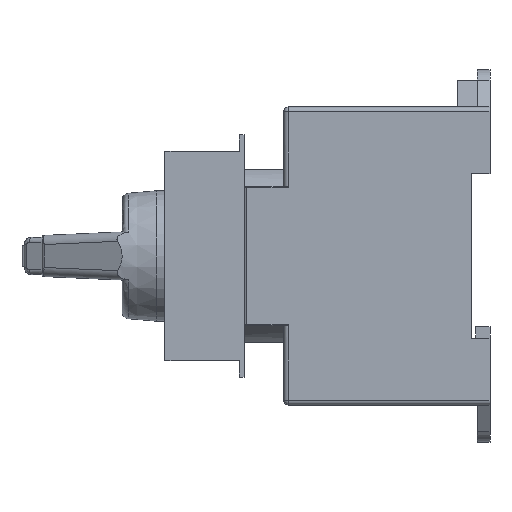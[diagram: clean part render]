
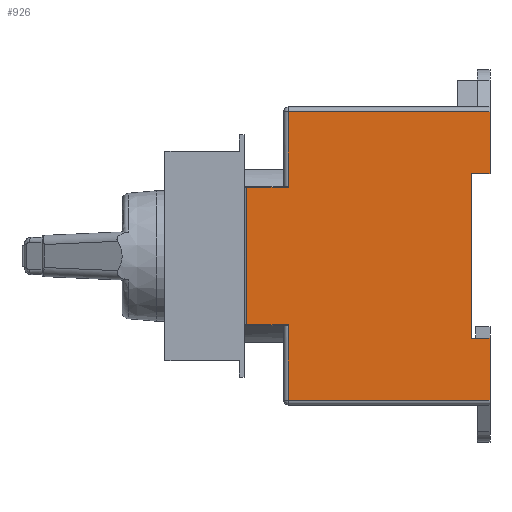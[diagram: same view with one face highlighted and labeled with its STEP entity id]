
A CAD part, left-side view. The second image highlights one B-rep face of the part: STEP entity #926.
In plain terms, the highlighted planar face has unit normal (-1, 0, 0).
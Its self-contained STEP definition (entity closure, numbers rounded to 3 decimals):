
#628 = CARTESIAN_POINT ( 'NONE',  ( -24., 0., -17.65 ) ) ;
#783 = VECTOR ( 'NONE', #2307, 1000. ) ;
#926 = ADVANCED_FACE ( 'NONE', ( #10887 ), #6605, .F. ) ;
#1366 = ORIENTED_EDGE ( 'NONE', *, *, #9416, .T. ) ;
#1532 = ORIENTED_EDGE ( 'NONE', *, *, #14659, .T. ) ;
#1777 = CARTESIAN_POINT ( 'NONE',  ( -24., 44.3, 14.75 ) ) ;
#1989 = VERTEX_POINT ( 'NONE', #5338 ) ;
#2012 = CARTESIAN_POINT ( 'NONE',  ( -24., 4., -17.65 ) ) ;
#2053 = ORIENTED_EDGE ( 'NONE', *, *, #13557, .F. ) ;
#2307 = DIRECTION ( 'NONE',  ( 0., 0., -1. ) ) ;
#2412 = DIRECTION ( 'NONE',  ( 0., 0., -1. ) ) ;
#2506 = CARTESIAN_POINT ( 'NONE',  ( -24., 4., -32. ) ) ;
#3069 = EDGE_CURVE ( 'NONE', #4180, #10213, #6377, .T. ) ;
#3136 = CARTESIAN_POINT ( 'NONE',  ( -24., 43.3, 31. ) ) ;
#3178 = VERTEX_POINT ( 'NONE', #3136 ) ;
#3258 = VERTEX_POINT ( 'NONE', #628 ) ;
#3481 = VERTEX_POINT ( 'NONE', #2012 ) ;
#3633 = LINE ( 'NONE', #10206, #5940 ) ;
#3661 = EDGE_CURVE ( 'NONE', #3258, #12001, #3633, .T. ) ;
#3811 = LINE ( 'NONE', #11371, #10566 ) ;
#3921 = ORIENTED_EDGE ( 'NONE', *, *, #16017, .F. ) ;
#4180 = VERTEX_POINT ( 'NONE', #6155 ) ;
#4601 = DIRECTION ( 'NONE',  ( 0., 1., 0. ) ) ;
#4636 = LINE ( 'NONE', #14735, #15030 ) ;
#4786 = VECTOR ( 'NONE', #2412, 1000. ) ;
#4891 = EDGE_CURVE ( 'NONE', #1989, #4180, #4636, .T. ) ;
#5136 = CARTESIAN_POINT ( 'NONE',  ( -24., 44.3, -31. ) ) ;
#5154 = VECTOR ( 'NONE', #14501, 1000. ) ;
#5338 = CARTESIAN_POINT ( 'NONE',  ( -24., 52.3, -14.75 ) ) ;
#5464 = CARTESIAN_POINT ( 'NONE',  ( -24., 0., 31. ) ) ;
#5681 = ORIENTED_EDGE ( 'NONE', *, *, #5684, .F. ) ;
#5684 = EDGE_CURVE ( 'NONE', #15075, #3481, #8004, .T. ) ;
#5705 = VECTOR ( 'NONE', #7924, 1000. ) ;
#5940 = VECTOR ( 'NONE', #16929, 1000. ) ;
#6123 = LINE ( 'NONE', #12030, #5705 ) ;
#6155 = CARTESIAN_POINT ( 'NONE',  ( -24., 43.3, -14.75 ) ) ;
#6281 = CARTESIAN_POINT ( 'NONE',  ( -24., 44.3, -17.65 ) ) ;
#6288 = AXIS2_PLACEMENT_3D ( 'NONE', #11782, #9003, #13160 ) ;
#6377 = LINE ( 'NONE', #13892, #16735 ) ;
#6605 = PLANE ( 'NONE',  #6288 ) ;
#7281 = LINE ( 'NONE', #14789, #10473 ) ;
#7491 = VERTEX_POINT ( 'NONE', #15386 ) ;
#7634 = EDGE_LOOP ( 'NONE', ( #16932, #1366, #8447, #13142, #8179, #11729, #3921, #5681, #13952, #2053, #11896, #1532 ) ) ;
#7659 = DIRECTION ( 'NONE',  ( 0., -1., 0. ) ) ;
#7924 = DIRECTION ( 'NONE',  ( 0., 1., 0. ) ) ;
#8004 = LINE ( 'NONE', #2506, #783 ) ;
#8179 = ORIENTED_EDGE ( 'NONE', *, *, #16106, .T. ) ;
#8447 = ORIENTED_EDGE ( 'NONE', *, *, #4891, .T. ) ;
#8716 = LINE ( 'NONE', #5136, #5154 ) ;
#8777 = CARTESIAN_POINT ( 'NONE',  ( -24., 43.3, 14.75 ) ) ;
#9003 = DIRECTION ( 'NONE',  ( 1., 0., 0. ) ) ;
#9367 = DIRECTION ( 'NONE',  ( 0., 0., -1. ) ) ;
#9416 = EDGE_CURVE ( 'NONE', #9539, #1989, #9731, .T. ) ;
#9539 = VERTEX_POINT ( 'NONE', #12955 ) ;
#9627 = DIRECTION ( 'NONE',  ( 0., 0., -1. ) ) ;
#9731 = LINE ( 'NONE', #13869, #15674 ) ;
#10206 = CARTESIAN_POINT ( 'NONE',  ( -24., 0., -32. ) ) ;
#10213 = VERTEX_POINT ( 'NONE', #12051 ) ;
#10473 = VECTOR ( 'NONE', #9367, 1000. ) ;
#10566 = VECTOR ( 'NONE', #4601, 1000. ) ;
#10651 = CARTESIAN_POINT ( 'NONE',  ( -24., 0., -32. ) ) ;
#10672 = EDGE_CURVE ( 'NONE', #12504, #3178, #6123, .T. ) ;
#10814 = VERTEX_POINT ( 'NONE', #8777 ) ;
#10887 = FACE_OUTER_BOUND ( 'NONE', #7634, .T. ) ;
#10945 = CARTESIAN_POINT ( 'NONE',  ( -24., 0., -31. ) ) ;
#11156 = EDGE_CURVE ( 'NONE', #7491, #15075, #3811, .T. ) ;
#11371 = CARTESIAN_POINT ( 'NONE',  ( -24., 44.3, 17.65 ) ) ;
#11729 = ORIENTED_EDGE ( 'NONE', *, *, #3661, .F. ) ;
#11735 = VECTOR ( 'NONE', #16576, 1000. ) ;
#11782 = CARTESIAN_POINT ( 'NONE',  ( -24., 44.3, -32. ) ) ;
#11811 = CARTESIAN_POINT ( 'NONE',  ( -24., 4., 17.65 ) ) ;
#11896 = ORIENTED_EDGE ( 'NONE', *, *, #10672, .T. ) ;
#12001 = VERTEX_POINT ( 'NONE', #10945 ) ;
#12006 = LINE ( 'NONE', #10651, #4786 ) ;
#12030 = CARTESIAN_POINT ( 'NONE',  ( -24., 44.3, 31. ) ) ;
#12051 = CARTESIAN_POINT ( 'NONE',  ( -24., 43.3, -31. ) ) ;
#12292 = DIRECTION ( 'NONE',  ( 0., -1., 0. ) ) ;
#12504 = VERTEX_POINT ( 'NONE', #5464 ) ;
#12559 = DIRECTION ( 'NONE',  ( 0., 0., -1. ) ) ;
#12784 = VECTOR ( 'NONE', #7659, 1000. ) ;
#12955 = CARTESIAN_POINT ( 'NONE',  ( -24., 52.3, 14.75 ) ) ;
#13142 = ORIENTED_EDGE ( 'NONE', *, *, #3069, .T. ) ;
#13160 = DIRECTION ( 'NONE',  ( 0., 0., -1. ) ) ;
#13557 = EDGE_CURVE ( 'NONE', #12504, #7491, #12006, .T. ) ;
#13869 = CARTESIAN_POINT ( 'NONE',  ( -24., 52.3, -14.75 ) ) ;
#13892 = CARTESIAN_POINT ( 'NONE',  ( -24., 43.3, -32. ) ) ;
#13952 = ORIENTED_EDGE ( 'NONE', *, *, #11156, .F. ) ;
#14501 = DIRECTION ( 'NONE',  ( 0., -1., 0. ) ) ;
#14659 = EDGE_CURVE ( 'NONE', #3178, #10814, #7281, .T. ) ;
#14735 = CARTESIAN_POINT ( 'NONE',  ( -24., 44.3, -14.75 ) ) ;
#14789 = CARTESIAN_POINT ( 'NONE',  ( -24., 43.3, 15. ) ) ;
#14915 = LINE ( 'NONE', #1777, #11735 ) ;
#15030 = VECTOR ( 'NONE', #12292, 1000. ) ;
#15075 = VERTEX_POINT ( 'NONE', #11811 ) ;
#15386 = CARTESIAN_POINT ( 'NONE',  ( -24., 0., 17.65 ) ) ;
#15674 = VECTOR ( 'NONE', #9627, 1000. ) ;
#15772 = EDGE_CURVE ( 'NONE', #10814, #9539, #14915, .T. ) ;
#16017 = EDGE_CURVE ( 'NONE', #3481, #3258, #16347, .T. ) ;
#16106 = EDGE_CURVE ( 'NONE', #10213, #12001, #8716, .T. ) ;
#16347 = LINE ( 'NONE', #6281, #12784 ) ;
#16576 = DIRECTION ( 'NONE',  ( 0., 1., 0. ) ) ;
#16735 = VECTOR ( 'NONE', #12559, 1000. ) ;
#16929 = DIRECTION ( 'NONE',  ( 0., 0., -1. ) ) ;
#16932 = ORIENTED_EDGE ( 'NONE', *, *, #15772, .T. ) ;
